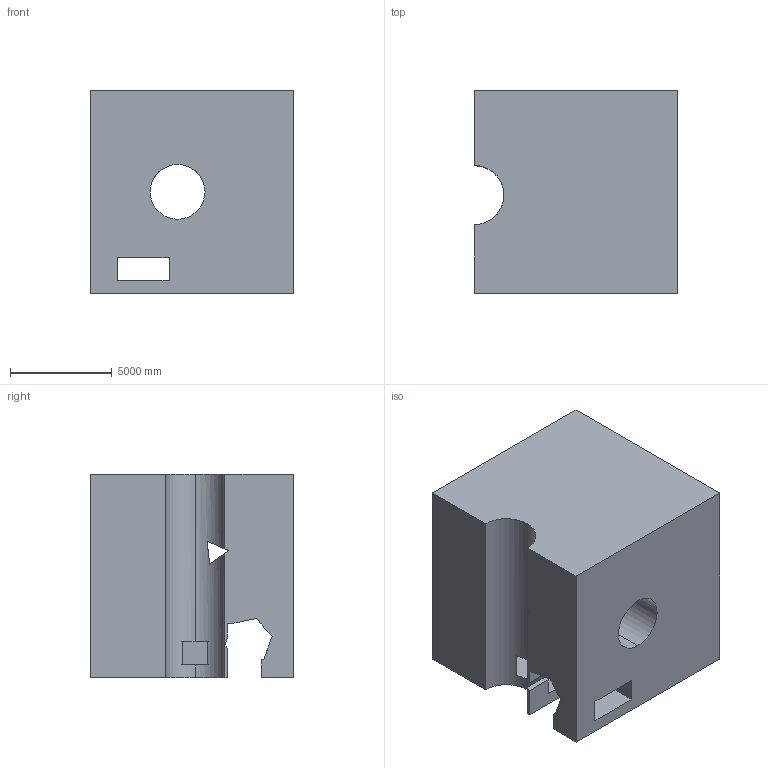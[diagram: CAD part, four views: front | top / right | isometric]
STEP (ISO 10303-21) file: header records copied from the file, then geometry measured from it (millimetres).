
FILE_DESCRIPTION (( 'STEP AP203' ), '1' );
FILE_NAME ('550.STEP', '2022-07-29T11:46:28', ( 'user' ), ( '' ), 'SwSTEP 2.0', 'SolidWorks 2021', '' );
FILE_SCHEMA (( 'CONFIG_CONTROL_DESIGN' ));
Length unit declared in the file: centimetre
Products named in the file (1): 550
Bounding box: 10000 x 10000 x 10000 mm (x, y, z)
Volume: 829630999589.5 mm3; surface area: 800464238.8 mm2
Topology: 1 solids, 1 shells, 41 faces, 138 edges, 92 vertices
Faces by surface type: plane 37, cylinder 4
Entity records: 1585 total; most frequent: CARTESIAN_POINT 305, ORIENTED_EDGE 276, DIRECTION 223, EDGE_CURVE 138, LINE 115, VECTOR 115, VERTEX_POINT 92, AXIS2_PLACEMENT_3D 54
